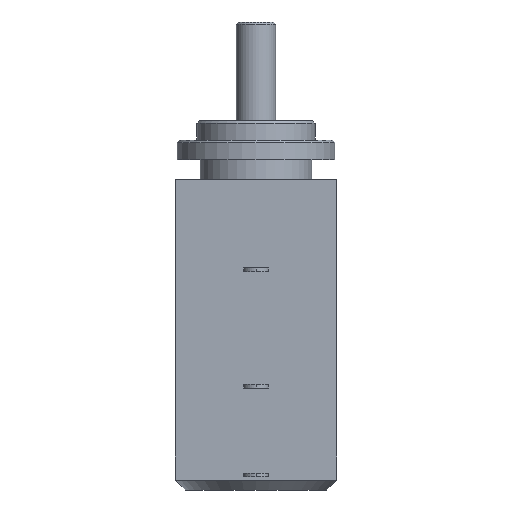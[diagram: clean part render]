
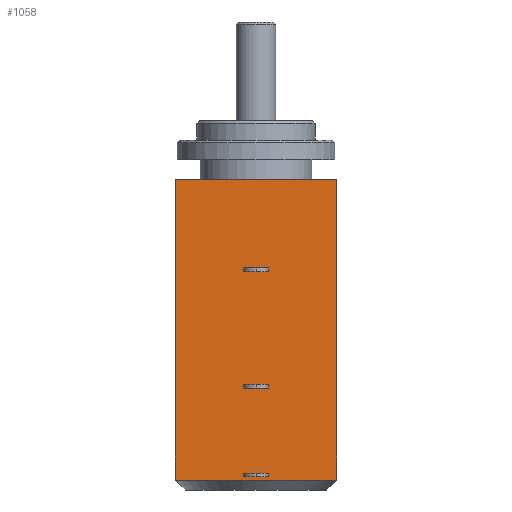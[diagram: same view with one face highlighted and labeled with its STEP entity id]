
A CAD part, front view. The second image highlights one B-rep face of the part: STEP entity #1058.
In plain terms, the highlighted planar face has unit normal (0, -1, 0).
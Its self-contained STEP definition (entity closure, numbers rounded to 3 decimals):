
#14 = LINE ( 'NONE', #110, #435 ) ;
#17 = ORIENTED_EDGE ( 'NONE', *, *, #476, .T. ) ;
#18 = VERTEX_POINT ( 'NONE', #840 ) ;
#24 = VECTOR ( 'NONE', #595, 1000. ) ;
#28 = VERTEX_POINT ( 'NONE', #574 ) ;
#61 = LINE ( 'NONE', #837, #351 ) ;
#62 = LINE ( 'NONE', #873, #392 ) ;
#84 = ORIENTED_EDGE ( 'NONE', *, *, #990, .T. ) ;
#85 = VERTEX_POINT ( 'NONE', #510 ) ;
#104 = CARTESIAN_POINT ( 'NONE',  ( 6.5, -7.9, 0. ) ) ;
#110 = CARTESIAN_POINT ( 'NONE',  ( -6.5, -7.9, 0. ) ) ;
#112 = CARTESIAN_POINT ( 'NONE',  ( -1., -7.9, -16.85 ) ) ;
#119 = ORIENTED_EDGE ( 'NONE', *, *, #338, .F. ) ;
#123 = EDGE_CURVE ( 'NONE', #269, #605, #247, .T. ) ;
#125 = DIRECTION ( 'NONE',  ( 0., 0., 1. ) ) ;
#131 = ORIENTED_EDGE ( 'NONE', *, *, #173, .F. ) ;
#143 = CARTESIAN_POINT ( 'NONE',  ( -6.5, -7.9, -24.26 ) ) ;
#147 = CARTESIAN_POINT ( 'NONE',  ( 1., -7.9, -16.85 ) ) ;
#158 = EDGE_CURVE ( 'NONE', #605, #537, #997, .T. ) ;
#166 = EDGE_LOOP ( 'NONE', ( #550, #726, #939, #615 ) ) ;
#173 = EDGE_CURVE ( 'NONE', #427, #1033, #651, .T. ) ;
#187 = CARTESIAN_POINT ( 'NONE',  ( -1., -7.9, -7.15 ) ) ;
#197 = DIRECTION ( 'NONE',  ( 1., 0., 0. ) ) ;
#203 = CARTESIAN_POINT ( 'NONE',  ( -1., -7.9, -23.7 ) ) ;
#209 = EDGE_CURVE ( 'NONE', #697, #306, #882, .T. ) ;
#210 = DIRECTION ( 'NONE',  ( 1., 0., 0. ) ) ;
#232 = VECTOR ( 'NONE', #410, 1000. ) ;
#235 = VERTEX_POINT ( 'NONE', #104 ) ;
#247 = LINE ( 'NONE', #1009, #613 ) ;
#262 = FACE_BOUND ( 'NONE', #321, .T. ) ;
#269 = VERTEX_POINT ( 'NONE', #868 ) ;
#286 = VECTOR ( 'NONE', #197, 1000. ) ;
#297 = VECTOR ( 'NONE', #841, 1000. ) ;
#306 = VERTEX_POINT ( 'NONE', #1017 ) ;
#319 = PLANE ( 'NONE',  #1029 ) ;
#321 = EDGE_LOOP ( 'NONE', ( #973, #859, #119, #553 ) ) ;
#326 = CARTESIAN_POINT ( 'NONE',  ( -1., -7.9, -16.85 ) ) ;
#338 = EDGE_CURVE ( 'NONE', #618, #269, #62, .T. ) ;
#351 = VECTOR ( 'NONE', #826, 1000. ) ;
#367 = VERTEX_POINT ( 'NONE', #372 ) ;
#372 = CARTESIAN_POINT ( 'NONE',  ( -6.5, -7.9, 0. ) ) ;
#383 = ORIENTED_EDGE ( 'NONE', *, *, #690, .F. ) ;
#392 = VECTOR ( 'NONE', #451, 1000. ) ;
#410 = DIRECTION ( 'NONE',  ( -1., 0., 0. ) ) ;
#414 = DIRECTION ( 'NONE',  ( -1., 0., 0. ) ) ;
#423 = LINE ( 'NONE', #675, #694 ) ;
#427 = VERTEX_POINT ( 'NONE', #1036 ) ;
#435 = VECTOR ( 'NONE', #455, 1000. ) ;
#438 = CARTESIAN_POINT ( 'NONE',  ( 1., -7.9, -16.85 ) ) ;
#439 = ORIENTED_EDGE ( 'NONE', *, *, #796, .F. ) ;
#440 = VERTEX_POINT ( 'NONE', #540 ) ;
#451 = DIRECTION ( 'NONE',  ( 1., 0., 0. ) ) ;
#455 = DIRECTION ( 'NONE',  ( 1., 0., 0. ) ) ;
#457 = CARTESIAN_POINT ( 'NONE',  ( 1., -7.9, -7.15 ) ) ;
#458 = FACE_BOUND ( 'NONE', #166, .T. ) ;
#470 = LINE ( 'NONE', #112, #286 ) ;
#476 = EDGE_CURVE ( 'NONE', #28, #235, #516, .T. ) ;
#484 = CARTESIAN_POINT ( 'NONE',  ( -1., -7.9, -7.15 ) ) ;
#501 = LINE ( 'NONE', #640, #862 ) ;
#510 = CARTESIAN_POINT ( 'NONE',  ( 1., -7.9, -7.45 ) ) ;
#516 = LINE ( 'NONE', #992, #913 ) ;
#534 = ORIENTED_EDGE ( 'NONE', *, *, #879, .F. ) ;
#537 = VERTEX_POINT ( 'NONE', #727 ) ;
#540 = CARTESIAN_POINT ( 'NONE',  ( -6.5, -7.9, -24.26 ) ) ;
#544 = EDGE_CURVE ( 'NONE', #537, #618, #679, .T. ) ;
#550 = ORIENTED_EDGE ( 'NONE', *, *, #772, .F. ) ;
#553 = ORIENTED_EDGE ( 'NONE', *, *, #544, .F. ) ;
#566 = CARTESIAN_POINT ( 'NONE',  ( 1., -7.9, -16.55 ) ) ;
#571 = VECTOR ( 'NONE', #707, 1000. ) ;
#574 = CARTESIAN_POINT ( 'NONE',  ( 6.5, -7.9, -24.26 ) ) ;
#581 = EDGE_CURVE ( 'NONE', #440, #367, #423, .T. ) ;
#595 = DIRECTION ( 'NONE',  ( 0., 0., -1. ) ) ;
#599 = CARTESIAN_POINT ( 'NONE',  ( -1., -7.9, -23.7 ) ) ;
#601 = VECTOR ( 'NONE', #908, 1000. ) ;
#605 = VERTEX_POINT ( 'NONE', #614 ) ;
#613 = VECTOR ( 'NONE', #671, 1000. ) ;
#614 = CARTESIAN_POINT ( 'NONE',  ( 1., -7.9, -23.7 ) ) ;
#615 = ORIENTED_EDGE ( 'NONE', *, *, #209, .F. ) ;
#618 = VERTEX_POINT ( 'NONE', #753 ) ;
#640 = CARTESIAN_POINT ( 'NONE',  ( -1., -7.9, -7.45 ) ) ;
#641 = VERTEX_POINT ( 'NONE', #438 ) ;
#651 = LINE ( 'NONE', #770, #852 ) ;
#663 = LINE ( 'NONE', #147, #297 ) ;
#671 = DIRECTION ( 'NONE',  ( 0., 0., 1. ) ) ;
#675 = CARTESIAN_POINT ( 'NONE',  ( -6.5, -7.9, -24.26 ) ) ;
#679 = LINE ( 'NONE', #203, #601 ) ;
#682 = ORIENTED_EDGE ( 'NONE', *, *, #754, .F. ) ;
#690 = EDGE_CURVE ( 'NONE', #367, #235, #14, .T. ) ;
#694 = VECTOR ( 'NONE', #763, 1000. ) ;
#697 = VERTEX_POINT ( 'NONE', #960 ) ;
#707 = DIRECTION ( 'NONE',  ( -1., 0., 0. ) ) ;
#720 = CARTESIAN_POINT ( 'NONE',  ( -1., -7.9, -16.55 ) ) ;
#726 = ORIENTED_EDGE ( 'NONE', *, *, #1060, .F. ) ;
#727 = CARTESIAN_POINT ( 'NONE',  ( -1., -7.9, -23.7 ) ) ;
#739 = DIRECTION ( 'NONE',  ( 0., -1., 0. ) ) ;
#753 = CARTESIAN_POINT ( 'NONE',  ( -1., -7.9, -24. ) ) ;
#754 = EDGE_CURVE ( 'NONE', #85, #427, #1012, .T. ) ;
#763 = DIRECTION ( 'NONE',  ( 0., 0., 1. ) ) ;
#770 = CARTESIAN_POINT ( 'NONE',  ( -1., -7.9, -7.15 ) ) ;
#772 = EDGE_CURVE ( 'NONE', #866, #697, #895, .T. ) ;
#778 = EDGE_CURVE ( 'NONE', #306, #641, #470, .T. ) ;
#796 = EDGE_CURVE ( 'NONE', #1033, #18, #1076, .T. ) ;
#820 = DIRECTION ( 'NONE',  ( 0., 0., -1. ) ) ;
#826 = DIRECTION ( 'NONE',  ( 1., 0., 0. ) ) ;
#837 = CARTESIAN_POINT ( 'NONE',  ( -6.5, -7.9, -24.26 ) ) ;
#839 = FACE_OUTER_BOUND ( 'NONE', #1027, .T. ) ;
#840 = CARTESIAN_POINT ( 'NONE',  ( -1., -7.9, -7.45 ) ) ;
#841 = DIRECTION ( 'NONE',  ( 0., 0., 1. ) ) ;
#852 = VECTOR ( 'NONE', #414, 1000. ) ;
#859 = ORIENTED_EDGE ( 'NONE', *, *, #123, .F. ) ;
#862 = VECTOR ( 'NONE', #210, 1000. ) ;
#866 = VERTEX_POINT ( 'NONE', #566 ) ;
#868 = CARTESIAN_POINT ( 'NONE',  ( 1., -7.9, -24. ) ) ;
#873 = CARTESIAN_POINT ( 'NONE',  ( -1., -7.9, -24. ) ) ;
#879 = EDGE_CURVE ( 'NONE', #18, #85, #501, .T. ) ;
#882 = LINE ( 'NONE', #326, #24 ) ;
#895 = LINE ( 'NONE', #720, #571 ) ;
#908 = DIRECTION ( 'NONE',  ( 0., 0., -1. ) ) ;
#913 = VECTOR ( 'NONE', #125, 1000. ) ;
#914 = ORIENTED_EDGE ( 'NONE', *, *, #581, .F. ) ;
#939 = ORIENTED_EDGE ( 'NONE', *, *, #778, .F. ) ;
#945 = VECTOR ( 'NONE', #953, 1000. ) ;
#951 = DIRECTION ( 'NONE',  ( 0., 0., -1. ) ) ;
#953 = DIRECTION ( 'NONE',  ( 0., 0., 1. ) ) ;
#960 = CARTESIAN_POINT ( 'NONE',  ( -1., -7.9, -16.55 ) ) ;
#964 = EDGE_LOOP ( 'NONE', ( #131, #682, #534, #439 ) ) ;
#968 = FACE_BOUND ( 'NONE', #964, .T. ) ;
#973 = ORIENTED_EDGE ( 'NONE', *, *, #158, .F. ) ;
#990 = EDGE_CURVE ( 'NONE', #440, #28, #61, .T. ) ;
#992 = CARTESIAN_POINT ( 'NONE',  ( 6.5, -7.9, -24.26 ) ) ;
#996 = VECTOR ( 'NONE', #951, 1000. ) ;
#997 = LINE ( 'NONE', #599, #232 ) ;
#1009 = CARTESIAN_POINT ( 'NONE',  ( 1., -7.9, -23.7 ) ) ;
#1012 = LINE ( 'NONE', #457, #945 ) ;
#1017 = CARTESIAN_POINT ( 'NONE',  ( -1., -7.9, -16.85 ) ) ;
#1027 = EDGE_LOOP ( 'NONE', ( #383, #914, #84, #17 ) ) ;
#1029 = AXIS2_PLACEMENT_3D ( 'NONE', #143, #739, #820 ) ;
#1033 = VERTEX_POINT ( 'NONE', #484 ) ;
#1036 = CARTESIAN_POINT ( 'NONE',  ( 1., -7.9, -7.15 ) ) ;
#1058 = ADVANCED_FACE ( 'NONE', ( #839, #262, #458, #968 ), #319, .T. ) ;
#1060 = EDGE_CURVE ( 'NONE', #641, #866, #663, .T. ) ;
#1076 = LINE ( 'NONE', #187, #996 ) ;
